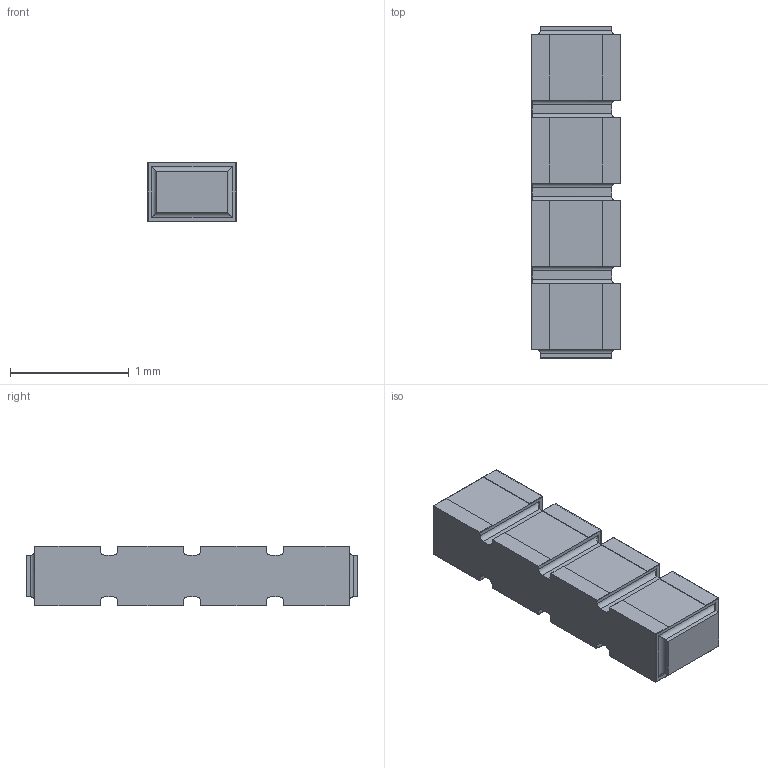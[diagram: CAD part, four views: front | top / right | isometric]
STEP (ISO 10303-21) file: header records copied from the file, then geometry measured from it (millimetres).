
FILE_DESCRIPTION(/* description */ (''),/* implementation_level */ '2;1');
FILE_NAME(/* name */ 'S:\DOCUMENT\AUTOCAD\3D_Modèles\10_3D-pour-VISHAY-COM\PRA\PRA073\PRA073-C2_à_C8\10_IGES\PRA073C4_B-or-N-or-G.stp',/* time_stamp */ '2017-12-21T10:43:52+01:00',/* author */ ('dparmentier'),/* organization */ ('unknown'),/* preprocessor_version */ 'ST-DEVELOPER v17',/* originating_system */ 'Autodesk Inventor 2018',/* authorisation */ '');
FILE_SCHEMA (('AUTOMOTIVE_DESIGN { 1 0 10303 214 3 1 1 }'));
Length unit declared in the file: millimetre
Products named in the file (1): PRA073C4_B-or-N-or-G
Bounding box: 0.75 x 2.8 x 0.5 mm (x, y, z)
Volume: 1 mm3; surface area: 15.3 mm2
Topology: 6 solids, 6 shells, 164 faces, 430 edges, 280 vertices
Faces by surface type: plane 126, cylinder 38
Entity records: 5018 total; most frequent: CARTESIAN_POINT 875, ORIENTED_EDGE 860, DIRECTION 816, EDGE_CURVE 430, LINE 374, VECTOR 374, VERTEX_POINT 280, AXIS2_PLACEMENT_3D 221
